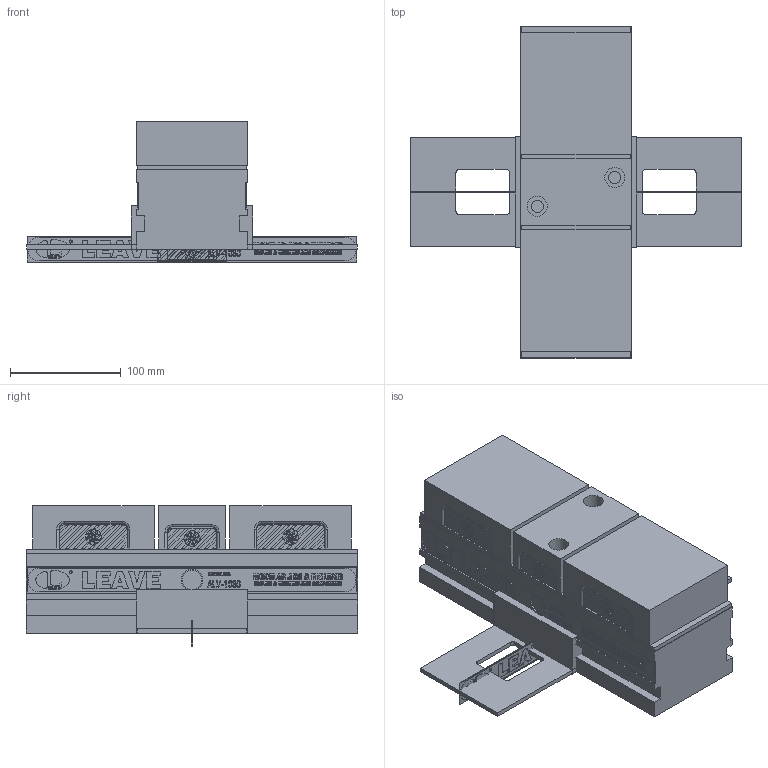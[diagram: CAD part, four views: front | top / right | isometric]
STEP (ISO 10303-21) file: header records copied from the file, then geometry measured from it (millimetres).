
FILE_DESCRIPTION( ( 'Unknown' ), '1' );
FILE_NAME( 's:/Solid Edge/給客戶的CD-3D/ALV-3D/ALV-1030/ALV-1030-組件/ALV-1030-2.stp', 'Unknown', ( 'S.C.H' ), ( 'Unknown' ), 'XStep 1.0', 'Unknown', ' ' );
FILE_SCHEMA( ( 'CONFIG_CONTROL_DESIGN' ) );
Length unit declared in the file: millimetre
Products named in the file (11): Assem1; Assem2; Assem3; Assem4; 1; 2; 3; 4; 5; 6; 7
Bounding box: 299 x 300 x 126.75 mm (x, y, z)
Volume: 8580376.6 mm3; surface area: 895502.4 mm2
Topology: 29 solids, 29 shells, 8423 faces, 22314 edges, 14877 vertices
Faces by surface type: plane 5283, cylinder 1622, extrusion 1490, torus 28
Full cylindrical faces by diameter (mm): 2.597 x5, 2.717 x5, 11 x6, 12 x33, 17.5 x5, 18 x6, 19.5 x5, 20 x9
Entity records: 55737 total; most frequent: CARTESIAN_POINT 14341, ORIENTED_EDGE 8766, DIRECTION 7524, EDGE_CURVE 4383, VECTOR 3428, LINE 3130, VERTEX_POINT 2934, AXIS2_PLACEMENT_3D 2048
